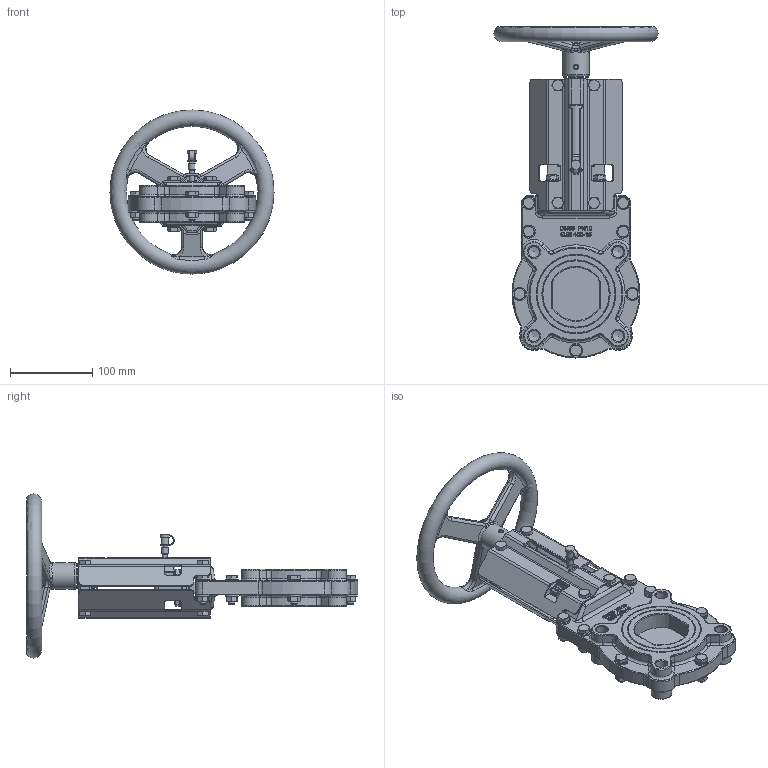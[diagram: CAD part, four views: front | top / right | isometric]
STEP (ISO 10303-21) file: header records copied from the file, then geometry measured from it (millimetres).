
FILE_DESCRIPTION(/* description */ (''),/* implementation_level */ '2;1');
FILE_NAME(/* name */ 'Non-rising stem knife gate valve with handwheel DN65.stp',/* time_stamp */ '2025-04-02T09:44:02+08:00',/* author */ (''),/* organization */ (''),/* preprocessor_version */ 'ST-DEVELOPER v15',/* originating_system */ 'SIEMENS PLM Software NX 10.0',/* authorisation */ '');
FILE_SCHEMA (('AP203_CONFIGURATION_CONTROLLED_3D_DESIGN_OF_MECHANICAL_PARTS_AND_ASSEMBLIES_MIM_LF { 1 0 10303 403 2 1 2}'));
Length unit declared in the file: millimetre
Products named in the file (1): Admi271CEB492f1b
Bounding box: 199.98 x 404.5 x 199.98 mm (x, y, z)
Volume: 1235692.7 mm3; surface area: 284282.5 mm2
Topology: 1 solids, 17 shells, 2506 faces, 6270 edges, 3904 vertices
Faces by surface type: plane 1014, cylinder 509, bspline 371, extrusion 223, cone 192, torus 149, sphere 48
Full cylindrical faces by diameter (mm): 5.459 x2, 6 x3, 6.4 x2, 7.323 x7, 8 x19, 8.4 x18, 8.7 x2, 9 x1, 11.4 x15, 11.5 x1, 12 x2, 13.5 x1, 13.835 x8, 16 x20, 18 x1, 30 x3, 32 x1
Entity records: 80412 total; most frequent: CARTESIAN_POINT 25694, ORIENTED_EDGE 11850, DIRECTION 9560, EDGE_CURVE 5925, VERTEX_POINT 3822, AXIS2_PLACEMENT_3D 3340, EDGE_LOOP 2933, VECTOR 2880
